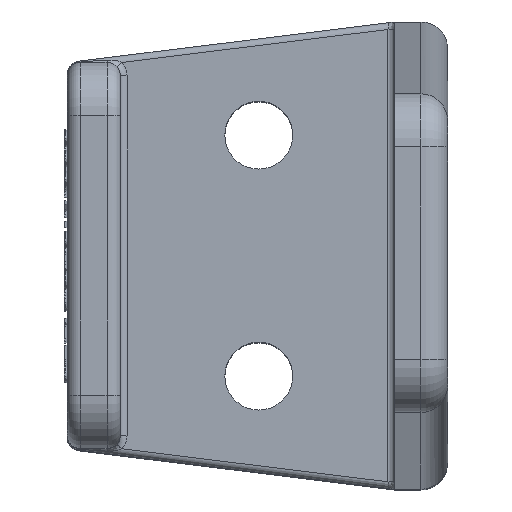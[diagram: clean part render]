
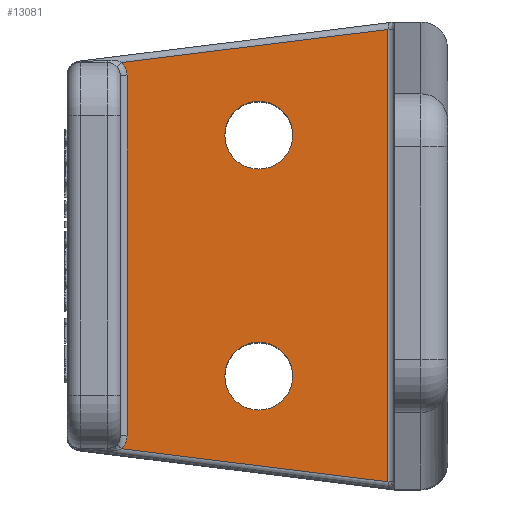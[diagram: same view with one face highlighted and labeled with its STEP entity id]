
A CAD part, top view. The second image highlights one B-rep face of the part: STEP entity #13081.
In plain terms, the highlighted planar face has unit normal (0, 0, 1).
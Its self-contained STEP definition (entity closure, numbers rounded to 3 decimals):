
#143=CARTESIAN_POINT('',(-10.2,-9.05,15.95));
#144=DIRECTION('',(0.,0.,1.));
#145=DIRECTION('',(1.,0.,0.));
#146=AXIS2_PLACEMENT_3D('',#143,#144,#145);
#148=CARTESIAN_POINT('',(-10.2,-9.05,15.95));
#149=DIRECTION('',(0.,0.,1.));
#150=DIRECTION('',(-1.,0.,0.));
#151=AXIS2_PLACEMENT_3D('',#148,#149,#150);
#153=CARTESIAN_POINT('',(-10.2,9.05,15.95));
#154=DIRECTION('',(0.,0.,1.));
#155=DIRECTION('',(1.,0.,0.));
#156=AXIS2_PLACEMENT_3D('',#153,#154,#155);
#158=CARTESIAN_POINT('',(-10.2,9.05,15.95));
#159=DIRECTION('',(0.,0.,1.));
#160=DIRECTION('',(-1.,0.,0.));
#161=AXIS2_PLACEMENT_3D('',#158,#159,#160);
#163=DIRECTION('',(0.,1.,0.));
#164=VECTOR('',#163,33.968);
#165=CARTESIAN_POINT('',(-0.5,-16.984,
15.95));
#166=LINE('',#165,#164);
#167=DIRECTION('',(-0.992,0.123,0.));
#168=VECTOR('',#167,20.14);
#169=CARTESIAN_POINT('',(-0.5,-16.984,
15.95));
#170=LINE('',#169,#168);
#171=CARTESIAN_POINT('',(-21.6,-13.5,15.95));
#172=DIRECTION('',(0.,0.,-1.));
#173=DIRECTION('',(1.,0.,0.));
#174=AXIS2_PLACEMENT_3D('',#171,#172,#173);
#176=DIRECTION('',(0.,-1.,0.));
#177=VECTOR('',#176,27.);
#178=CARTESIAN_POINT('',(-20.1,13.5,15.95));
#179=LINE('',#178,#177);
#180=CARTESIAN_POINT('',(-21.6,13.5,15.95));
#181=DIRECTION('',(0.,0.,-1.));
#182=DIRECTION('',(0.742,0.671,0.));
#183=AXIS2_PLACEMENT_3D('',#180,#181,#182);
#185=DIRECTION('',(0.992,0.123,0.));
#186=VECTOR('',#185,20.14);
#187=CARTESIAN_POINT('',(-20.487,14.506,15.95));
#188=LINE('',#187,#186);
#780=CARTESIAN_POINT('',(-0.5,16.984,15.95));
#886=CARTESIAN_POINT('',(-20.487,-14.506,15.95));
#10090=CARTESIAN_POINT('',(-7.65,9.05,15.95));
#10091=VERTEX_POINT('',#10090);
#10092=CARTESIAN_POINT('',(-12.75,9.05,15.95));
#10093=VERTEX_POINT('',#10092);
#10094=CARTESIAN_POINT('',(-7.65,-9.05,15.95));
#10095=VERTEX_POINT('',#10094);
#10096=CARTESIAN_POINT('',(-12.75,-9.05,15.95));
#10097=VERTEX_POINT('',#10096);
#12279=VERTEX_POINT('',#886);
#12281=CARTESIAN_POINT('',(-20.1,-13.5,15.95));
#12282=VERTEX_POINT('',#12281);
#12285=CARTESIAN_POINT('',(-20.1,13.5,15.95));
#12286=VERTEX_POINT('',#12285);
#12289=CARTESIAN_POINT('',(-20.487,14.506,15.95));
#12290=VERTEX_POINT('',#12289);
#12336=VERTEX_POINT('',#780);
#12338=CARTESIAN_POINT('',(-0.5,-16.984,
15.95));
#12339=VERTEX_POINT('',#12338);
#13051=CARTESIAN_POINT('',(0.,0.,15.95));
#13052=DIRECTION('',(0.,0.,1.));
#13053=DIRECTION('',(1.,0.,0.));
#13054=AXIS2_PLACEMENT_3D('',#13051,#13052,#13053);
#13055=PLANE('',#13054);
#13056=ORIENTED_EDGE('',*,*,#13042,.F.);
#13058=ORIENTED_EDGE('',*,*,#13057,.T.);
#13060=ORIENTED_EDGE('',*,*,#13059,.F.);
#13062=ORIENTED_EDGE('',*,*,#13061,.F.);
#13064=ORIENTED_EDGE('',*,*,#13063,.F.);
#13066=ORIENTED_EDGE('',*,*,#13065,.T.);
#13067=EDGE_LOOP('',(#13056,#13058,#13060,#13062,#13064,#13066));
#13068=FACE_OUTER_BOUND('',#13067,.F.);
#13070=ORIENTED_EDGE('',*,*,#13069,.T.);
#13072=ORIENTED_EDGE('',*,*,#13071,.T.);
#13073=EDGE_LOOP('',(#13070,#13072));
#13074=FACE_BOUND('',#13073,.F.);
#13076=ORIENTED_EDGE('',*,*,#13075,.T.);
#13078=ORIENTED_EDGE('',*,*,#13077,.T.);
#13079=EDGE_LOOP('',(#13076,#13078));
#13080=FACE_BOUND('',#13079,.F.);
#13081=ADVANCED_FACE('',(#13068,#13074,#13080),#13055,.T.);
#147=CIRCLE('',#146,2.55);
#152=CIRCLE('',#151,2.55);
#157=CIRCLE('',#156,2.55);
#162=CIRCLE('',#161,2.55);
#175=CIRCLE('',#174,1.5);
#184=CIRCLE('',#183,1.5);
#13042=EDGE_CURVE('',#12339,#12336,#166,.T.);
#13057=EDGE_CURVE('',#12339,#12279,#170,.T.);
#13059=EDGE_CURVE('',#12282,#12279,#175,.T.);
#13061=EDGE_CURVE('',#12286,#12282,#179,.T.);
#13063=EDGE_CURVE('',#12290,#12286,#184,.T.);
#13065=EDGE_CURVE('',#12290,#12336,#188,.T.);
#13069=EDGE_CURVE('',#10091,#10093,#157,.T.);
#13071=EDGE_CURVE('',#10093,#10091,#162,.T.);
#13075=EDGE_CURVE('',#10095,#10097,#147,.T.);
#13077=EDGE_CURVE('',#10097,#10095,#152,.T.);
